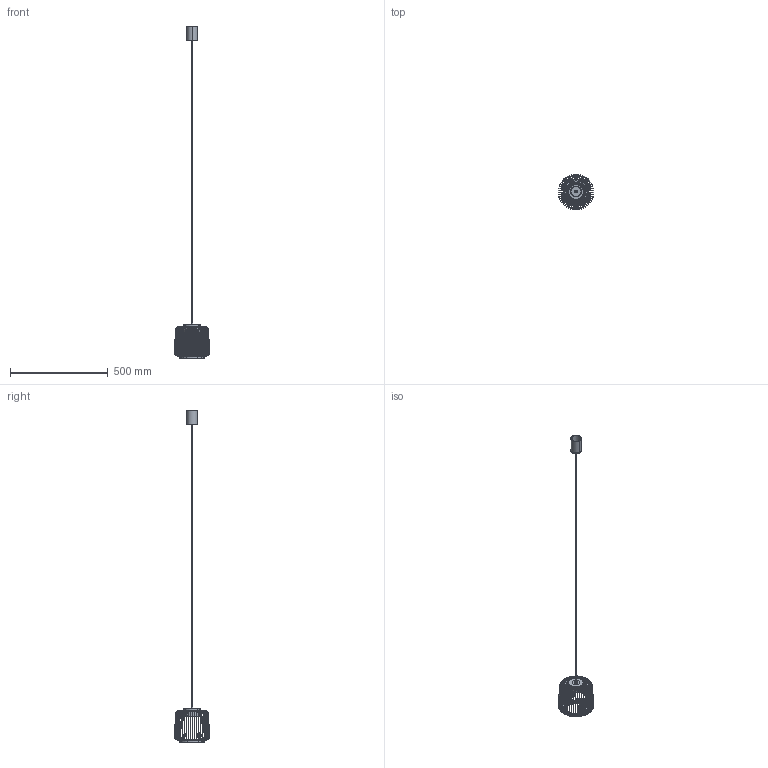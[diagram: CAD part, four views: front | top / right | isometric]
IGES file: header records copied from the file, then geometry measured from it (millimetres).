
Start section: SolidWorks IGES file using analytic representation for surfaces
Global section: file name: C:\Users\anna.bielnik\Desktop\KENAI A\NL2500012258.IGS; native system: SolidWorks 2024; preprocessor: SolidWorks 2024; author: anna.bielnik; date: 260109.145705; units: millimetre
Bounding box: 182.93 x 182.84 x 1700 mm (x, y, z)
Surface area: 218610.1 mm2 (no closed solid volume)
Topology: 0 solids, 0 shells, 1389 faces, 13660 edges, 13660 vertices
Faces by surface type: revolution 828, bspline 561
